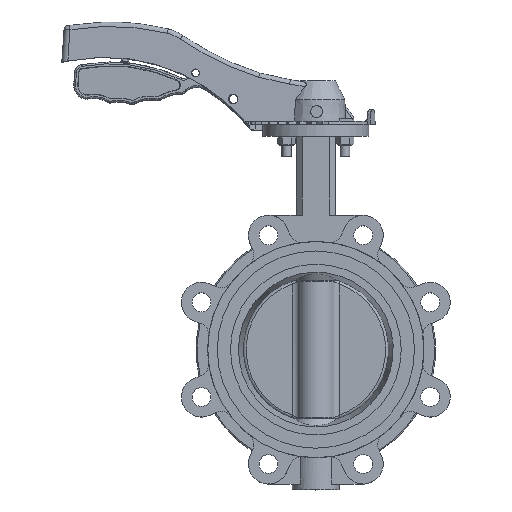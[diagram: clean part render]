
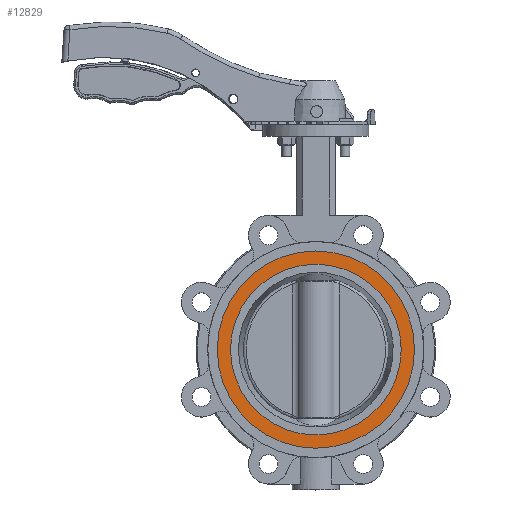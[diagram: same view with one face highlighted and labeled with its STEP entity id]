
A CAD part, top view. The second image highlights one B-rep face of the part: STEP entity #12829.
In plain terms, the highlighted planar face has unit normal (0, 0, 1).
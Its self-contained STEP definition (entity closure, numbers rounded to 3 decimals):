
#2058 = PLANE ( 'NONE',  #54534 ) ;
#4049 = VERTEX_POINT ( 'NONE', #65931 ) ;
#8061 = CARTESIAN_POINT ( 'NONE',  ( -102.987, -34.707, 30. ) ) ;
#12829 = ADVANCED_FACE ( 'NONE', ( #22335, #38505 ), #2058, .T. ) ;
#13564 = AXIS2_PLACEMENT_3D ( 'NONE', #38594, #64014, #17944 ) ;
#14984 = EDGE_CURVE ( 'NONE', #54459, #54459, #17886, .T. ) ;
#17511 = DIRECTION ( 'NONE',  ( 0., 0., 1. ) ) ;
#17886 = CIRCLE ( 'NONE', #13564, 83.65 ) ;
#17944 = DIRECTION ( 'NONE',  ( -1., 0., 0. ) ) ;
#18113 = DIRECTION ( 'NONE',  ( -1., 0., 0. ) ) ;
#21877 = AXIS2_PLACEMENT_3D ( 'NONE', #28304, #27309, #18113 ) ;
#22335 = FACE_BOUND ( 'NONE', #61404, .T. ) ;
#24392 = ORIENTED_EDGE ( 'NONE', *, *, #14984, .F. ) ;
#27309 = DIRECTION ( 'NONE',  ( 0., 0., -1. ) ) ;
#28304 = CARTESIAN_POINT ( 'NONE',  ( -19.337, -34.707, 30. ) ) ;
#38174 = DIRECTION ( 'NONE',  ( 1., 0., 0. ) ) ;
#38505 = FACE_OUTER_BOUND ( 'NONE', #63566, .T. ) ;
#38594 = CARTESIAN_POINT ( 'NONE',  ( -19.337, -34.707, 30. ) ) ;
#49242 = EDGE_CURVE ( 'NONE', #4049, #4049, #60819, .T. ) ;
#54459 = VERTEX_POINT ( 'NONE', #8061 ) ;
#54534 = AXIS2_PLACEMENT_3D ( 'NONE', #63925, #17511, #38174 ) ;
#60819 = CIRCLE ( 'NONE', #21877, 72.4 ) ;
#61404 = EDGE_LOOP ( 'NONE', ( #62150 ) ) ;
#62150 = ORIENTED_EDGE ( 'NONE', *, *, #49242, .T. ) ;
#63566 = EDGE_LOOP ( 'NONE', ( #24392 ) ) ;
#63925 = CARTESIAN_POINT ( 'NONE',  ( -91.737, -34.707, 30. ) ) ;
#64014 = DIRECTION ( 'NONE',  ( 0., 0., -1. ) ) ;
#65931 = CARTESIAN_POINT ( 'NONE',  ( -91.737, -34.707, 30. ) ) ;
